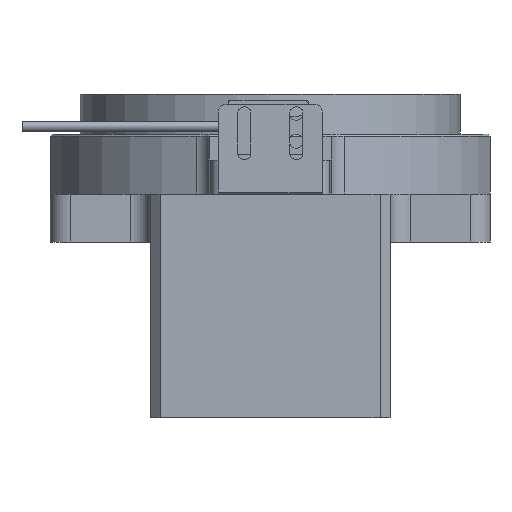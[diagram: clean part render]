
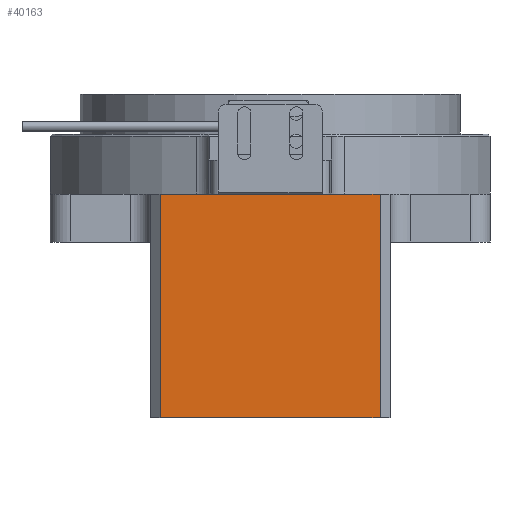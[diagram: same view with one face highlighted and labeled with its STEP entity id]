
A CAD part, front view. The second image highlights one B-rep face of the part: STEP entity #40163.
In plain terms, the highlighted planar face has unit normal (0, -1, 0).
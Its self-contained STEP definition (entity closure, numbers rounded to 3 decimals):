
#194 = DIRECTION ( 'NONE',  ( -1., 0., 0. ) ) ;
#630 = AXIS2_PLACEMENT_3D ( 'NONE', #3659, #53410, #45525 ) ;
#2068 = ORIENTED_EDGE ( 'NONE', *, *, #24476, .F. ) ;
#3659 = CARTESIAN_POINT ( 'NONE',  ( -23.542, -92.877, 40.5 ) ) ;
#6281 = ORIENTED_EDGE ( 'NONE', *, *, #43353, .T. ) ;
#7053 = VERTEX_POINT ( 'NONE', #22671 ) ;
#8886 = EDGE_LOOP ( 'NONE', ( #37029, #6281, #49012, #2068 ) ) ;
#8899 = CARTESIAN_POINT ( 'NONE',  ( -23.542, -92.877, -40.5 ) ) ;
#9016 = LINE ( 'NONE', #50867, #40597 ) ;
#9191 = CARTESIAN_POINT ( 'NONE',  ( 31.458, -92.877, -40.5 ) ) ;
#10470 = DIRECTION ( 'NONE',  ( 0., 0., -1. ) ) ;
#11013 = FACE_OUTER_BOUND ( 'NONE', #8886, .T. ) ;
#13621 = DIRECTION ( 'NONE',  ( 0., 0., -1. ) ) ;
#14512 = VECTOR ( 'NONE', #16022, 1000. ) ;
#16022 = DIRECTION ( 'NONE',  ( 1., 0., 0. ) ) ;
#16115 = CARTESIAN_POINT ( 'NONE',  ( 31.458, -92.877, -40.5 ) ) ;
#21613 = VERTEX_POINT ( 'NONE', #31315 ) ;
#22671 = CARTESIAN_POINT ( 'NONE',  ( 31.458, -92.877, 15.5 ) ) ;
#24450 = CARTESIAN_POINT ( 'NONE',  ( -23.542, -92.877, 15.5 ) ) ;
#24476 = EDGE_CURVE ( 'NONE', #7053, #30698, #9016, .T. ) ;
#24579 = VECTOR ( 'NONE', #194, 1000. ) ;
#30698 = VERTEX_POINT ( 'NONE', #16115 ) ;
#30893 = EDGE_CURVE ( 'NONE', #30698, #43297, #50259, .T. ) ;
#31315 = CARTESIAN_POINT ( 'NONE',  ( -23.542, -92.877, 15.5 ) ) ;
#36021 = PLANE ( 'NONE',  #630 ) ;
#36831 = EDGE_CURVE ( 'NONE', #21613, #7053, #37520, .T. ) ;
#37029 = ORIENTED_EDGE ( 'NONE', *, *, #36831, .F. ) ;
#37520 = LINE ( 'NONE', #24450, #14512 ) ;
#40163 = ADVANCED_FACE ( 'NONE', ( #11013 ), #36021, .F. ) ;
#40597 = VECTOR ( 'NONE', #13621, 1000. ) ;
#42806 = LINE ( 'NONE', #43084, #51296 ) ;
#43084 = CARTESIAN_POINT ( 'NONE',  ( -23.542, -92.877, 40.5 ) ) ;
#43297 = VERTEX_POINT ( 'NONE', #8899 ) ;
#43353 = EDGE_CURVE ( 'NONE', #21613, #43297, #42806, .T. ) ;
#45525 = DIRECTION ( 'NONE',  ( 1., 0., 0. ) ) ;
#49012 = ORIENTED_EDGE ( 'NONE', *, *, #30893, .F. ) ;
#50259 = LINE ( 'NONE', #9191, #24579 ) ;
#50867 = CARTESIAN_POINT ( 'NONE',  ( 31.458, -92.877, 40.5 ) ) ;
#51296 = VECTOR ( 'NONE', #10470, 1000. ) ;
#53410 = DIRECTION ( 'NONE',  ( 0., 1., 0. ) ) ;
